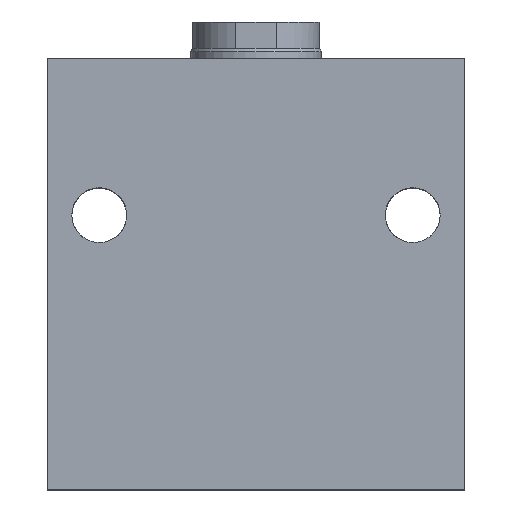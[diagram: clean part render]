
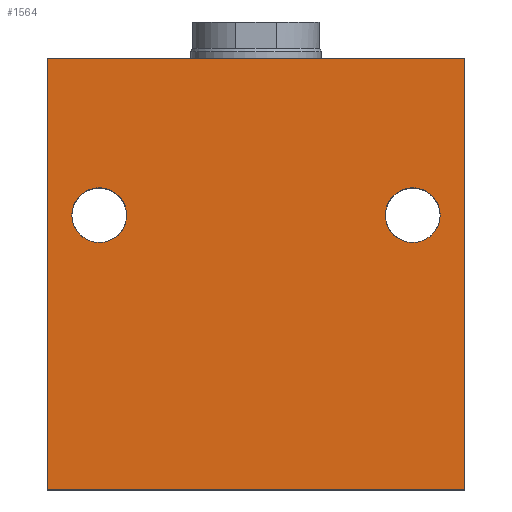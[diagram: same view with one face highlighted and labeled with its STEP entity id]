
A CAD part, top view. The second image highlights one B-rep face of the part: STEP entity #1564.
In plain terms, the highlighted planar face has unit normal (0, 0, 1).
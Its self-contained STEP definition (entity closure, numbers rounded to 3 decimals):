
#28 = EDGE_LOOP ( 'NONE', ( #950, #2433, #3193, #1035 ) ) ;
#56 = AXIS2_PLACEMENT_3D ( 'NONE', #1673, #3628, #1962 ) ;
#92 = VERTEX_POINT ( 'NONE', #2491 ) ;
#156 = CIRCLE ( 'NONE', #1301, 10.5 ) ;
#178 = ORIENTED_EDGE ( 'NONE', *, *, #2171, .F. ) ;
#293 = EDGE_CURVE ( 'NONE', #977, #3133, #1661, .T. ) ;
#313 = VECTOR ( 'NONE', #3411, 1000. ) ;
#442 = DIRECTION ( 'NONE',  ( 0., 0., -1. ) ) ;
#459 = DIRECTION ( 'NONE',  ( 1., 0., 0. ) ) ;
#467 = VERTEX_POINT ( 'NONE', #3613 ) ;
#592 = DIRECTION ( 'NONE',  ( 0., -1., 0. ) ) ;
#769 = DIRECTION ( 'NONE',  ( 1., 0., 0. ) ) ;
#775 = CARTESIAN_POINT ( 'NONE',  ( -80., 0., 60. ) ) ;
#776 = FACE_BOUND ( 'NONE', #1390, .T. ) ;
#803 = DIRECTION ( 'NONE',  ( 0., 0., 1. ) ) ;
#834 = CARTESIAN_POINT ( 'NONE',  ( -60., 105., 60. ) ) ;
#950 = ORIENTED_EDGE ( 'NONE', *, *, #2700, .T. ) ;
#971 = CIRCLE ( 'NONE', #2798, 10.5 ) ;
#977 = VERTEX_POINT ( 'NONE', #1039 ) ;
#1035 = ORIENTED_EDGE ( 'NONE', *, *, #1550, .T. ) ;
#1039 = CARTESIAN_POINT ( 'NONE',  ( -49.5, 105., 60. ) ) ;
#1060 = LINE ( 'NONE', #3126, #313 ) ;
#1211 = CARTESIAN_POINT ( 'NONE',  ( 80., 85., 60. ) ) ;
#1246 = CARTESIAN_POINT ( 'NONE',  ( -70.5, 105., 60. ) ) ;
#1285 = PLANE ( 'NONE',  #2853 ) ;
#1301 = AXIS2_PLACEMENT_3D ( 'NONE', #1625, #3588, #1918 ) ;
#1318 = CARTESIAN_POINT ( 'NONE',  ( -80., 165., 60. ) ) ;
#1390 = EDGE_LOOP ( 'NONE', ( #2344, #178 ) ) ;
#1504 = EDGE_CURVE ( 'NONE', #2376, #1953, #1060, .T. ) ;
#1528 = VECTOR ( 'NONE', #2693, 1000. ) ;
#1544 = AXIS2_PLACEMENT_3D ( 'NONE', #834, #803, #769 ) ;
#1550 = EDGE_CURVE ( 'NONE', #2376, #2417, #2290, .T. ) ;
#1556 = CARTESIAN_POINT ( 'NONE',  ( -80., 85., 60. ) ) ;
#1564 = ADVANCED_FACE ( 'NONE', ( #1617, #776, #3217 ), #1285, .F. ) ;
#1589 = ORIENTED_EDGE ( 'NONE', *, *, #2424, .F. ) ;
#1617 = FACE_BOUND ( 'NONE', #1734, .T. ) ;
#1625 = CARTESIAN_POINT ( 'NONE',  ( -60., 105., 60. ) ) ;
#1632 = CARTESIAN_POINT ( 'NONE',  ( 60., 105., 60. ) ) ;
#1661 = CIRCLE ( 'NONE', #1544, 10.5 ) ;
#1673 = CARTESIAN_POINT ( 'NONE',  ( 60., 105., 60. ) ) ;
#1734 = EDGE_LOOP ( 'NONE', ( #3007, #1589 ) ) ;
#1864 = CARTESIAN_POINT ( 'NONE',  ( -80., 85., 60. ) ) ;
#1867 = EDGE_CURVE ( 'NONE', #467, #92, #3640, .T. ) ;
#1918 = DIRECTION ( 'NONE',  ( 1., 0., 0. ) ) ;
#1921 = DIRECTION ( 'NONE',  ( 1., 0., 0. ) ) ;
#1953 = VERTEX_POINT ( 'NONE', #1996 ) ;
#1962 = DIRECTION ( 'NONE',  ( 1., 0., 0. ) ) ;
#1996 = CARTESIAN_POINT ( 'NONE',  ( 80., 165., 60. ) ) ;
#2008 = EDGE_CURVE ( 'NONE', #1953, #3174, #2460, .T. ) ;
#2165 = LINE ( 'NONE', #2992, #2831 ) ;
#2171 = EDGE_CURVE ( 'NONE', #3133, #977, #156, .T. ) ;
#2290 = LINE ( 'NONE', #1556, #1528 ) ;
#2292 = VECTOR ( 'NONE', #592, 1000. ) ;
#2344 = ORIENTED_EDGE ( 'NONE', *, *, #293, .F. ) ;
#2376 = VERTEX_POINT ( 'NONE', #1318 ) ;
#2417 = VERTEX_POINT ( 'NONE', #775 ) ;
#2423 = DIRECTION ( 'NONE',  ( -1., 0., 0. ) ) ;
#2424 = EDGE_CURVE ( 'NONE', #92, #467, #971, .T. ) ;
#2433 = ORIENTED_EDGE ( 'NONE', *, *, #2008, .F. ) ;
#2460 = LINE ( 'NONE', #1211, #2292 ) ;
#2491 = CARTESIAN_POINT ( 'NONE',  ( 49.5, 105., 60. ) ) ;
#2693 = DIRECTION ( 'NONE',  ( 0., -1., 0. ) ) ;
#2700 = EDGE_CURVE ( 'NONE', #2417, #3174, #2165, .T. ) ;
#2798 = AXIS2_PLACEMENT_3D ( 'NONE', #1632, #3592, #1921 ) ;
#2831 = VECTOR ( 'NONE', #459, 1000. ) ;
#2853 = AXIS2_PLACEMENT_3D ( 'NONE', #1864, #442, #2423 ) ;
#2992 = CARTESIAN_POINT ( 'NONE',  ( -80., 0., 60. ) ) ;
#3007 = ORIENTED_EDGE ( 'NONE', *, *, #1867, .F. ) ;
#3126 = CARTESIAN_POINT ( 'NONE',  ( -80., 165., 60. ) ) ;
#3133 = VERTEX_POINT ( 'NONE', #1246 ) ;
#3174 = VERTEX_POINT ( 'NONE', #3228 ) ;
#3193 = ORIENTED_EDGE ( 'NONE', *, *, #1504, .F. ) ;
#3217 = FACE_OUTER_BOUND ( 'NONE', #28, .T. ) ;
#3228 = CARTESIAN_POINT ( 'NONE',  ( 80., 0., 60. ) ) ;
#3411 = DIRECTION ( 'NONE',  ( 1., 0., 0. ) ) ;
#3588 = DIRECTION ( 'NONE',  ( 0., 0., 1. ) ) ;
#3592 = DIRECTION ( 'NONE',  ( 0., 0., 1. ) ) ;
#3613 = CARTESIAN_POINT ( 'NONE',  ( 70.5, 105., 60. ) ) ;
#3628 = DIRECTION ( 'NONE',  ( 0., 0., 1. ) ) ;
#3640 = CIRCLE ( 'NONE', #56, 10.5 ) ;
